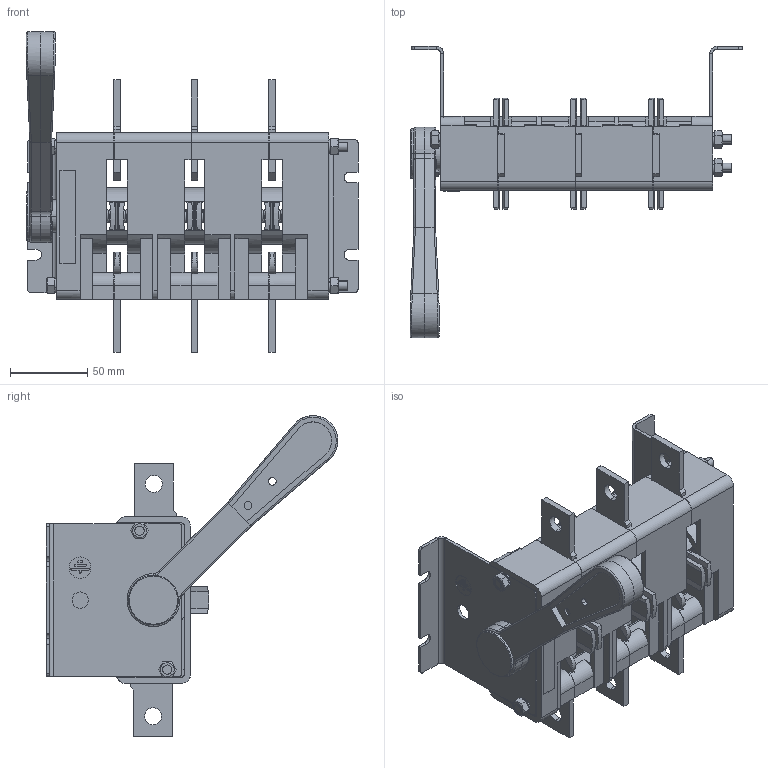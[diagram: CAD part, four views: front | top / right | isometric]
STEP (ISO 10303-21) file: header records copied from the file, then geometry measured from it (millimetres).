
FILE_DESCRIPTION (( 'STEP AP214' ), '1' );
FILE_NAME ('ﾂﾐ32-37ﾔ ﾃﾆﾈﾊ.642523.008-05 (ﾀ30220-400ﾀ).STEP', '2022-07-14T11:06:22', ( '' ), ( '' ), 'SwSTEP 2.0', 'SolidWorks 2018', '' );
FILE_SCHEMA (( 'AUTOMOTIVE_DESIGN' ));
Length unit declared in the file: millimetre
Products named in the file (27): ﾂﾐ32-37ﾔ ﾃﾆﾈﾊ.642523.008-05 (ﾀ30220-400ﾀ); Áîêîâèíà ëåâàÿ ÃÆÈÊ.735224.027; Îáîëî÷êà 100-400À; Êîðïóñ ñðåäíèé ÃÆÈÊ.735384.046; ﾂ鏆鮏 ﾃﾆﾈﾊ.745485.005; Òàáëè÷êà äëÿ ñáîðêè ÷èñòàÿ áîëüøàÿ; Ãàéêà 2Ì6-6Í.5.016; ﾘ琺矜 6 65ﾃ 016; ﾂ琿 ﾃﾆﾈﾊ.715274.003; 澡犟囹铕 闷仁.745484.003; 想囫蜩磬_闷仁.745355.027; Òàáëè÷êà äëÿ ñáîðêè ÷èñòàÿ; ﾏ跖浯_ﾃﾆﾈﾊ.753553.011_-01 (癸ｮ爼); ﾏ跖浯 ﾃﾆﾈﾊ.753553.010; Êîíòàêò ïîäâèæíûé ÃÆÈÊ.685179.145; Çàãëóøêà ÃÆÈÊ.735211.002_â¥å­®«®£¨ç¥áª ï; Øïèëüêà Ì6 ÃÆÈÊ.758292.005; Êîðïóñ ëåâûé ÃÆÈÊ.735384.047; 澡犟囹铕_闷仁.745484.006; 想囫蜩磬_闷仁.745355.007; 暑痫篑 镳噔 闷仁.735384.045; Ðóêîÿòêà ÃÆÈÊ.303658.015; 想囫蜩磬_闷仁.301714.003蚜; 想囫蜩磬_闷仁.745355.029; Êîíòàêò ïîäâèæíûé_ÃÆÈÊ.745355.013; Áîêîâèíà ïðàâàÿ ÃÆÈÊ.735224.026; 务黖闷仁.715411.019
Assembly tree (49 placements, depth 4):
  ﾂﾐ32-37ﾔ ﾃﾆﾈﾊ.642523.008-05 (ﾀ30220-400ﾀ)
    ﾂ琿 ﾃﾆﾈﾊ.715274.003
    Êîðïóñ ëåâûé ÃÆÈÊ.735384.047
    Êîðïóñ ñðåäíèé ÃÆÈÊ.735384.046  x2
    暑痫篑 镳噔 闷仁.735384.045
    Áîêîâèíà ëåâàÿ ÃÆÈÊ.735224.027
    Áîêîâèíà ïðàâàÿ ÃÆÈÊ.735224.026
    Êîíòàêò ïîäâèæíûé ÃÆÈÊ.685179.145  x3
      Êîíòàêò ïîäâèæíûé_ÃÆÈÊ.745355.013
      想囫蜩磬_闷仁.745355.007
      澡犟囹铕_闷仁.745484.006
      务黖闷仁.715411.019
      ﾏ跖浯_ﾃﾆﾈﾊ.753553.011_-01 (癸ｮ爼)
    Øïèëüêà Ì6 ÃÆÈÊ.758292.005  x2
    Ãàéêà 2Ì6-6Í.5.016  x4
    ﾘ琺矜 6 65ﾃ 016  x4
    ﾏ跖浯 ﾃﾆﾈﾊ.753553.010  x2
    澡犟囹铕 闷仁.745484.003  x2
    ﾂ鏆鮏 ﾃﾆﾈﾊ.745485.005  x6
    Ðóêîÿòêà ÃÆÈÊ.303658.015
      Îáîëî÷êà 100-400À
      想囫蜩磬_闷仁.301714.003蚜
        想囫蜩磬_闷仁.745355.027
        想囫蜩磬_闷仁.745355.029
    Çàãëóøêà ÃÆÈÊ.735211.002_â¥å­®«®£¨ç¥áª ï
    Òàáëè÷êà äëÿ ñáîðêè ÷èñòàÿ
    Òàáëè÷êà äëÿ ñáîðêè ÷èñòàÿ áîëüøàÿ
Bounding box: 215.09 x 188.98 x 207.73 mm (x, y, z)
Volume: 576933 mm3; surface area: 330705.7 mm2
Topology: 66 solids, 66 shells, 2214 faces, 5488 edges, 3473 vertices
Faces by surface type: plane 1321, cylinder 717, bspline 87, cone 68, torus 21
Entity records: 41000 total; most frequent: CARTESIAN_POINT 12443, DIRECTION 5836, ORIENTED_EDGE 5570, EDGE_CURVE 2785, AXIS2_PLACEMENT_3D 2027, VERTEX_POINT 1801, VECTOR 1782, LINE 1782
